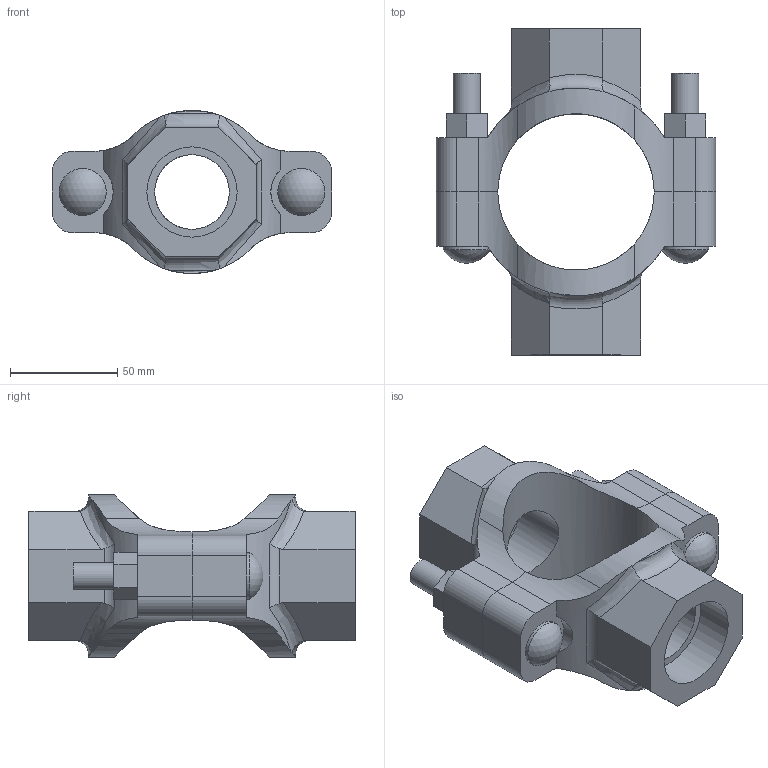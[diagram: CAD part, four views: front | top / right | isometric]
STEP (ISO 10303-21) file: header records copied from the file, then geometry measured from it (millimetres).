
FILE_DESCRIPTION(/* description */ ('VIC MECH-T BRANCH OUTLET CROSS STYLE 920N (THD)','CAx-IF Rec.Pracs.---Representation and Presentation of Product Manufacturing Information (PMI)---4.0---2014-10-13'),/* implementation_level */ '2;1');
FILE_NAME(/* name */ 'C:\Users\Vjadhav\AppData\Roaming\Autodesk\ApplicationPlugins\Back Up\Victaulic_IPS_Mechanical-Cross Outlet_Style 920N (FPT)\Victaulic_IPS_Mechanical-Cross Outlet_02.5x01.25x01.25 (65x32x32).stp',/* time_stamp */ '2020-08-06T18:56:47+05:00',/* author */ ('Vjadhav'),/* organization */ ('Victaulic'),/* preprocessor_version */ 'ST-DEVELOPER v17.2',/* originating_system */ 'Autodesk Inventor 2019',/* authorisation */ '');
FILE_SCHEMA (('TECHNICAL_DATA_PACKAGING','AP242_MANAGED_MODEL_BASED_3D_ENGINEERING_MIM_LF { 1 0 10303 442 1 1 4 }'));
Length unit declared in the file: inch
Products named in the file (3): 920NT-02.5x01.25x01.25; 920NT-02.5x01.25; 920NT-02.5x01.25_1
Assembly tree (2 placements, depth 2):
  920NT-02.5x01.25x01.25
    920NT-02.5x01.25
    920NT-02.5x01.25_1
Bounding box: 130.56 x 152.4 x 76.2 mm (x, y, z)
Volume: 337361.4 mm3; surface area: 78315 mm2
Topology: 2 solids, 2 shells, 138 faces, 374 edges, 252 vertices
Faces by surface type: plane 68, cylinder 56, bspline 8, torus 4, sphere 2
Full cylindrical faces by diameter (mm): 12.7 x4, 21.982 x2, 34.925 x2, 42.164 x2
Entity records: 5440 total; most frequent: CARTESIAN_POINT 1771, ORIENTED_EDGE 748, DIRECTION 660, EDGE_CURVE 374, VERTEX_POINT 252, AXIS2_PLACEMENT_3D 237, LINE 186, VECTOR 186
